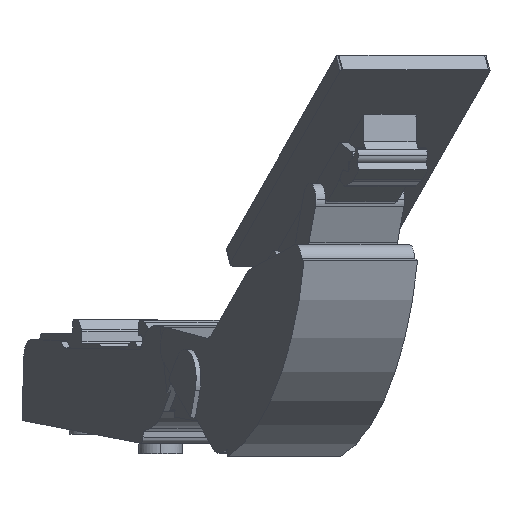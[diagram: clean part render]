
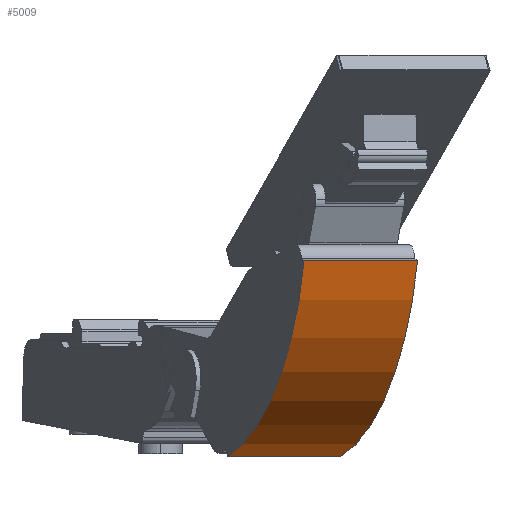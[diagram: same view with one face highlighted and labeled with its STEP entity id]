
A CAD part, front view. The second image highlights one B-rep face of the part: STEP entity #5009.
In plain terms, the highlighted cylindrical face has radius 45.5 mm (diameter 91 mm), a partial arc.
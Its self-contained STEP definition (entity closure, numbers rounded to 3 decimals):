
#348 = EDGE_CURVE ( 'NONE', #3891, #3888, #1356, .T. ) ;
#349 = EDGE_CURVE ( 'NONE', #3241, #3864, #1347, .T. ) ;
#454 = EDGE_CURVE ( 'NONE', #3891, #3241, #1278, .T. ) ;
#459 = EDGE_CURVE ( 'NONE', #3864, #3888, #1289, .T. ) ;
#632 = CARTESIAN_POINT ( 'NONE',  ( 34.614, -111.342, 29.726 ) ) ;
#679 = CARTESIAN_POINT ( 'NONE',  ( 40.857, -71.859, -3.778 ) ) ;
#706 = CARTESIAN_POINT ( 'NONE',  ( 53.987, -103.236, 29.726 ) ) ;
#951 = CARTESIAN_POINT ( 'NONE',  ( 21.485, -79.965, -3.778 ) ) ;
#1278 = LINE ( 'NONE', #4698, #1290 ) ;
#1280 = VECTOR ( 'NONE', #4757, 1000. ) ;
#1289 = LINE ( 'NONE', #4633, #1280 ) ;
#1290 = VECTOR ( 'NONE', #4719, 1000. ) ;
#1347 = CIRCLE ( 'NONE', #2705, 45.5 ) ;
#1356 = CIRCLE ( 'NONE', #2704, 45.5 ) ;
#2083 = FACE_OUTER_BOUND ( 'NONE', #3048, .T. ) ;
#2171 = CYLINDRICAL_SURFACE ( 'NONE', #2453, 45.5 ) ;
#2453 = AXIS2_PLACEMENT_3D ( 'NONE', #6959, #6980, #6977 ) ;
#2704 = AXIS2_PLACEMENT_3D ( 'NONE', #4298, #4603, #4779 ) ;
#2705 = AXIS2_PLACEMENT_3D ( 'NONE', #4782, #4783, #4560 ) ;
#3048 = EDGE_LOOP ( 'NONE', ( #6187, #3478, #6892, #3416 ) ) ;
#3241 = VERTEX_POINT ( 'NONE', #706 ) ;
#3416 = ORIENTED_EDGE ( 'NONE', *, *, #348, .T. ) ;
#3478 = ORIENTED_EDGE ( 'NONE', *, *, #349, .F. ) ;
#3864 = VERTEX_POINT ( 'NONE', #679 ) ;
#3888 = VERTEX_POINT ( 'NONE', #951 ) ;
#3891 = VERTEX_POINT ( 'NONE', #632 ) ;
#4298 = CARTESIAN_POINT ( 'NONE',  ( 17.557, -70.578, 40.57 ) ) ;
#4560 = DIRECTION ( 'NONE',  ( 0.386, -0.922, 0. ) ) ;
#4603 = DIRECTION ( 'NONE',  ( 0.922, 0.386, 0. ) ) ;
#4633 = CARTESIAN_POINT ( 'NONE',  ( 31.171, -75.912, -3.778 ) ) ;
#4698 = CARTESIAN_POINT ( 'NONE',  ( 44.3, -107.289, 29.726 ) ) ;
#4719 = DIRECTION ( 'NONE',  ( 0.922, 0.386, 0. ) ) ;
#4757 = DIRECTION ( 'NONE',  ( -0.922, -0.386, 0. ) ) ;
#4779 = DIRECTION ( 'NONE',  ( 0.386, -0.922, 0. ) ) ;
#4782 = CARTESIAN_POINT ( 'NONE',  ( 36.929, -62.471, 40.57 ) ) ;
#4783 = DIRECTION ( 'NONE',  ( 0.922, 0.386, 0. ) ) ;
#5009 = ADVANCED_FACE ( 'NONE', ( #2083 ), #2171, .T. ) ;
#6187 = ORIENTED_EDGE ( 'NONE', *, *, #459, .F. ) ;
#6892 = ORIENTED_EDGE ( 'NONE', *, *, #454, .F. ) ;
#6959 = CARTESIAN_POINT ( 'NONE',  ( 36.929, -62.471, 40.57 ) ) ;
#6977 = DIRECTION ( 'NONE',  ( 0.386, -0.922, 0. ) ) ;
#6980 = DIRECTION ( 'NONE',  ( -0.922, -0.386, 0. ) ) ;
